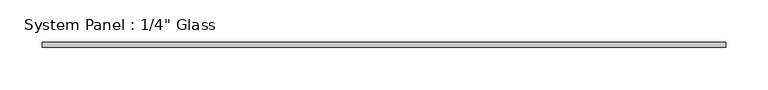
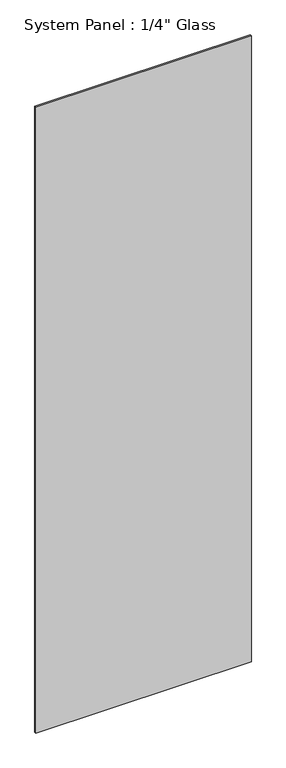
"""IFC4 building model written with IfcOpenShell, lengths in millimetres: plate geometry."""

from ifc_helpers import new_model, si_unit, origin, origin_with_axes, place, context, project, spatial, polyline, outline, extrude, source, transform, mapped, element, save


def plate_7efc74f4(model_context):
    return source(origin(), model_context, "Body", "SweptSolid", [
        extrude(outline(polyline([(405.6495425, -3.175), (-405.6495425, -3.175), (-405.6495425, 3.175), (405.6495425, 3.175), (405.6495425, -3.175)])), origin_with_axes(), (0.0, 0.0, 1.0), 2489.2),
    ])


if __name__ == "__main__":
    model = new_model("IFC4")
    model_context = context("Model", 3, world=origin())
    ifc_project = project(units=[si_unit("LENGTHUNIT", "METRE", prefix="MILLI")], contexts=[model_context])
    site = spatial("IfcSite", under=ifc_project)
    building = spatial("IfcBuilding", under=site)
    placement = place(None, origin())
    plate_shape = plate_7efc74f4(model_context)
    element("IfcPlate", 1, ObjectType="System Panel : 1/4\" Glass", at=placement, inside=building, context=model_context, shape_type="MappedRepresentation", body=[
        mapped(plate_shape, transform((0.0, 0.0, 0.0), x_axis=(1.0, 0.0, 0.0), y_axis=(0.0, 1.0, 0.0), z_axis=(0.0, 0.0, 1.0))),
    ])
    save(model, "model.ifc")
